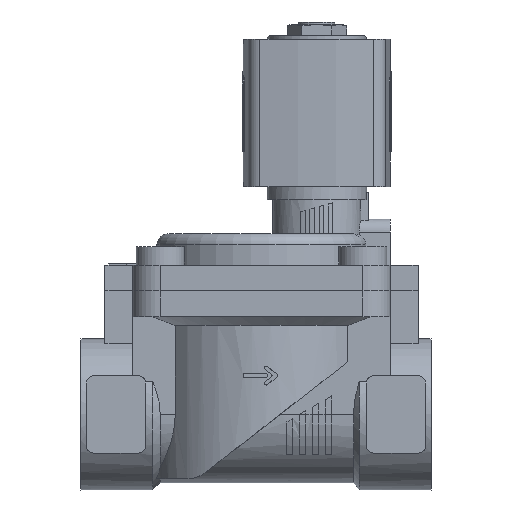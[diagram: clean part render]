
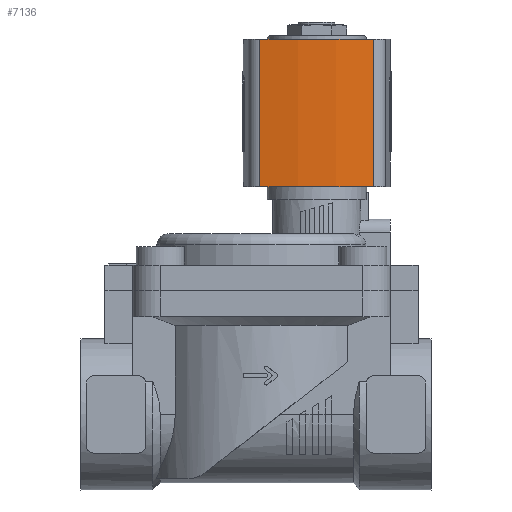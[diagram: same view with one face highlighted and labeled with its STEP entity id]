
A CAD part, top view. The second image highlights one B-rep face of the part: STEP entity #7136.
In plain terms, the highlighted cylindrical face has radius 80 mm (diameter 160 mm), a partial arc.
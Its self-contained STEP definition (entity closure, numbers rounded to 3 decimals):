
#233=CYLINDRICAL_SURFACE('',#7719,80.);
#694=LINE('',#11259,#1246);
#695=LINE('',#11263,#1247);
#1246=VECTOR('',#9239,1000.);
#1247=VECTOR('',#9244,1000.);
#2741=ORIENTED_EDGE('',*,*,#3807,.T.);
#2742=ORIENTED_EDGE('',*,*,#3808,.F.);
#2743=ORIENTED_EDGE('',*,*,#3755,.F.);
#2744=ORIENTED_EDGE('',*,*,#3806,.T.);
#3755=EDGE_CURVE('',#4402,#4403,#4682,.T.);
#3806=EDGE_CURVE('',#4402,#4446,#694,.T.);
#3807=EDGE_CURVE('',#4446,#4447,#4703,.T.);
#3808=EDGE_CURVE('',#4403,#4447,#695,.T.);
#4402=VERTEX_POINT('',#11159);
#4403=VERTEX_POINT('',#11160);
#4446=VERTEX_POINT('',#11258);
#4447=VERTEX_POINT('',#11262);
#4682=CIRCLE('',#7685,80.);
#4703=CIRCLE('',#7720,80.);
#5006=EDGE_LOOP('',(#2741,#2742,#2743,#2744));
#5384=FACE_BOUND('',#5006,.T.);
#7136=ADVANCED_FACE('',(#5384),#233,.T.);
#7685=AXIS2_PLACEMENT_3D('',#11158,#9149,#9150);
#7719=AXIS2_PLACEMENT_3D('',#11260,#9240,#9241);
#7720=AXIS2_PLACEMENT_3D('',#11261,#9242,#9243);
#9149=DIRECTION('',(0.,1.,0.));
#9150=DIRECTION('',(1.,0.,0.));
#9239=DIRECTION('',(0.,-1.,0.));
#9240=DIRECTION('',(0.,-1.,0.));
#9241=DIRECTION('',(0.,0.,-1.));
#9242=DIRECTION('',(0.,1.,0.));
#9243=DIRECTION('',(1.,0.,0.));
#9244=DIRECTION('',(0.,-1.,0.));
#11158=CARTESIAN_POINT('',(-56.5,14.,0.));
#11159=CARTESIAN_POINT('',(21.99,14.,15.472));
#11160=CARTESIAN_POINT('',(21.99,14.,-15.472));
#11258=CARTESIAN_POINT('',(21.99,-26.,15.472));
#11259=CARTESIAN_POINT('',(21.99,14.,15.472));
#11260=CARTESIAN_POINT('',(-56.5,14.,0.));
#11261=CARTESIAN_POINT('',(-56.5,-26.,0.));
#11262=CARTESIAN_POINT('',(21.99,-26.,-15.472));
#11263=CARTESIAN_POINT('',(21.99,14.,-15.472));
